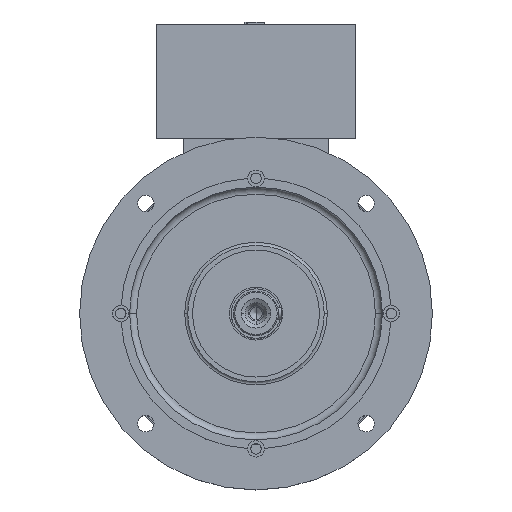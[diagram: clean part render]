
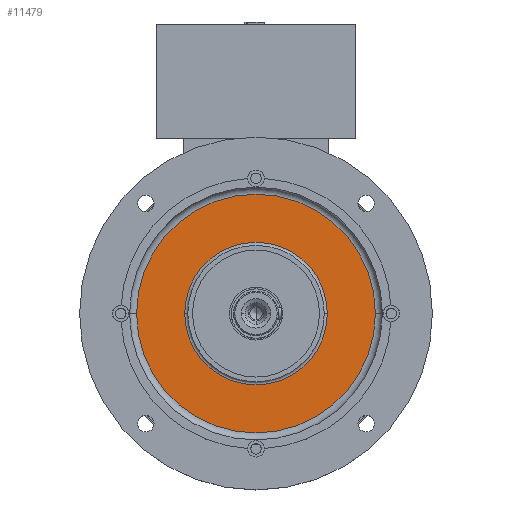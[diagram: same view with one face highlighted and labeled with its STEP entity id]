
A CAD part, top view. The second image highlights one B-rep face of the part: STEP entity #11479.
In plain terms, the highlighted planar face has unit normal (0, 0, 1).
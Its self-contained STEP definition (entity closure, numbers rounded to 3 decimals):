
#147 = EDGE_CURVE ( 'NONE', #17932, #22314, #23724, .T. ) ;
#390 = CARTESIAN_POINT ( 'NONE',  ( 0., 0., 166. ) ) ;
#419 = EDGE_CURVE ( 'NONE', #22314, #17932, #19923, .T. ) ;
#925 = VERTEX_POINT ( 'NONE', #22700 ) ;
#964 = CARTESIAN_POINT ( 'NONE',  ( 0., 0., 166. ) ) ;
#1160 = PLANE ( 'NONE',  #17369 ) ;
#1368 = DIRECTION ( 'NONE',  ( 0., 0., -1. ) ) ;
#1410 = CARTESIAN_POINT ( 'NONE',  ( -101.5, 0., 166. ) ) ;
#1917 = DIRECTION ( 'NONE',  ( 0., 0., 1. ) ) ;
#2021 = ORIENTED_EDGE ( 'NONE', *, *, #21540, .T. ) ;
#2387 = AXIS2_PLACEMENT_3D ( 'NONE', #4291, #17300, #21533 ) ;
#2931 = AXIS2_PLACEMENT_3D ( 'NONE', #964, #10492, #10168 ) ;
#3171 = CARTESIAN_POINT ( 'NONE',  ( 0., 0., 166. ) ) ;
#4291 = CARTESIAN_POINT ( 'NONE',  ( 0., 0., 166. ) ) ;
#5392 = ORIENTED_EDGE ( 'NONE', *, *, #419, .T. ) ;
#7654 = CARTESIAN_POINT ( 'NONE',  ( -60.598, 0., 166. ) ) ;
#9944 = FACE_OUTER_BOUND ( 'NONE', #14664, .T. ) ;
#10090 = EDGE_LOOP ( 'NONE', ( #2021, #18266 ) ) ;
#10168 = DIRECTION ( 'NONE',  ( -1., 0., 0. ) ) ;
#10388 = EDGE_CURVE ( 'NONE', #925, #23522, #13763, .T. ) ;
#10492 = DIRECTION ( 'NONE',  ( 0., 0., -1. ) ) ;
#11479 = ADVANCED_FACE ( 'NONE', ( #9944, #17495 ), #1160, .F. ) ;
#13763 = CIRCLE ( 'NONE', #15318, 60.598 ) ;
#14118 = CARTESIAN_POINT ( 'NONE',  ( 0., 58., 166. ) ) ;
#14415 = DIRECTION ( 'NONE',  ( -1., 0., 0. ) ) ;
#14664 = EDGE_LOOP ( 'NONE', ( #5392, #18358 ) ) ;
#14954 = DIRECTION ( 'NONE',  ( -1., 0., 0. ) ) ;
#15318 = AXIS2_PLACEMENT_3D ( 'NONE', #3171, #1368, #14415 ) ;
#15970 = DIRECTION ( 'NONE',  ( 0., 0., -1. ) ) ;
#17300 = DIRECTION ( 'NONE',  ( 0., 0., 1. ) ) ;
#17351 = AXIS2_PLACEMENT_3D ( 'NONE', #390, #1917, #14954 ) ;
#17369 = AXIS2_PLACEMENT_3D ( 'NONE', #14118, #15970, #23450 ) ;
#17495 = FACE_BOUND ( 'NONE', #10090, .T. ) ;
#17730 = CIRCLE ( 'NONE', #2931, 60.598 ) ;
#17932 = VERTEX_POINT ( 'NONE', #19301 ) ;
#18266 = ORIENTED_EDGE ( 'NONE', *, *, #10388, .T. ) ;
#18358 = ORIENTED_EDGE ( 'NONE', *, *, #147, .T. ) ;
#19301 = CARTESIAN_POINT ( 'NONE',  ( 101.5, 0., 166. ) ) ;
#19923 = CIRCLE ( 'NONE', #17351, 101.5 ) ;
#21533 = DIRECTION ( 'NONE',  ( -1., 0., 0. ) ) ;
#21540 = EDGE_CURVE ( 'NONE', #23522, #925, #17730, .T. ) ;
#22314 = VERTEX_POINT ( 'NONE', #1410 ) ;
#22700 = CARTESIAN_POINT ( 'NONE',  ( 60.598, 0., 166. ) ) ;
#23450 = DIRECTION ( 'NONE',  ( -1., 0., 0. ) ) ;
#23522 = VERTEX_POINT ( 'NONE', #7654 ) ;
#23724 = CIRCLE ( 'NONE', #2387, 101.5 ) ;
